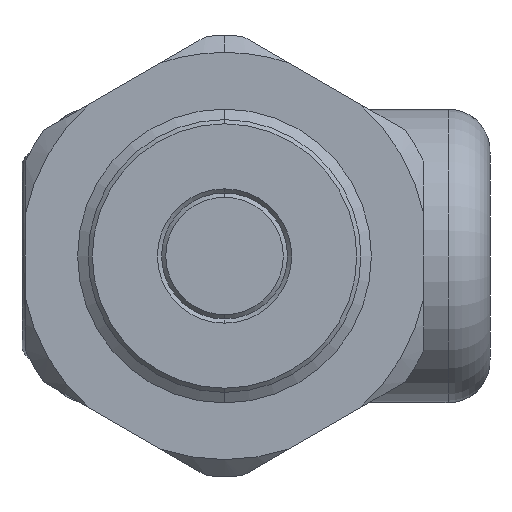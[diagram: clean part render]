
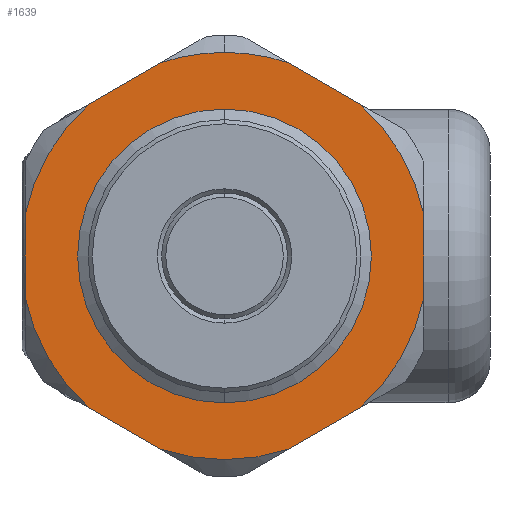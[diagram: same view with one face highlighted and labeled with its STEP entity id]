
A CAD part, front view. The second image highlights one B-rep face of the part: STEP entity #1639.
In plain terms, the highlighted planar face has unit normal (0, -1, 0).
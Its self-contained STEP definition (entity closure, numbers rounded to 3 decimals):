
#502 = VERTEX_POINT ( 'NONE', #12022 ) ;
#798 = EDGE_LOOP ( 'NONE', ( #15889, #30362 ) ) ;
#907 = DIRECTION ( 'NONE',  ( 0., 0., -1. ) ) ;
#1137 = EDGE_CURVE ( 'NONE', #17055, #7738, #9471, .T. ) ;
#1639 = ADVANCED_FACE ( 'NONE', ( #16743, #3644 ), #14467, .T. ) ;
#1702 = AXIS2_PLACEMENT_3D ( 'NONE', #6555, #14244, #3706 ) ;
#1767 = VERTEX_POINT ( 'NONE', #10233 ) ;
#1939 = EDGE_CURVE ( 'NONE', #12519, #23261, #29418, .T. ) ;
#2038 = CARTESIAN_POINT ( 'NONE',  ( -13.812, -10.005, 58.04 ) ) ;
#2121 = EDGE_CURVE ( 'NONE', #11350, #2230, #2455, .T. ) ;
#2152 = DIRECTION ( 'NONE',  ( 0.866, 0., 0.5 ) ) ;
#2230 = VERTEX_POINT ( 'NONE', #26546 ) ;
#2455 = LINE ( 'NONE', #5739, #6749 ) ;
#3033 = ORIENTED_EDGE ( 'NONE', *, *, #21872, .F. ) ;
#3644 = FACE_BOUND ( 'NONE', #798, .T. ) ;
#3649 = EDGE_CURVE ( 'NONE', #25893, #13933, #22998, .T. ) ;
#3706 = DIRECTION ( 'NONE',  ( 0., 0., -1. ) ) ;
#4567 = CARTESIAN_POINT ( 'NONE',  ( -4.312, -10.005, 67. ) ) ;
#5455 = EDGE_CURVE ( 'NONE', #2230, #1767, #6851, .T. ) ;
#5496 = CARTESIAN_POINT ( 'NONE',  ( -4.312, -10.005, 60. ) ) ;
#5498 = ORIENTED_EDGE ( 'NONE', *, *, #9852, .T. ) ;
#5739 = CARTESIAN_POINT ( 'NONE',  ( -13.812, -10.005, 60. ) ) ;
#5866 = CARTESIAN_POINT ( 'NONE',  ( -9.062, -10.005, 51.773 ) ) ;
#6213 = CARTESIAN_POINT ( 'NONE',  ( -4.312, -10.005, 60. ) ) ;
#6294 = AXIS2_PLACEMENT_3D ( 'NONE', #17115, #19569, #24481 ) ;
#6555 = CARTESIAN_POINT ( 'NONE',  ( -4.312, -10.005, 60. ) ) ;
#6749 = VECTOR ( 'NONE', #13162, 1000. ) ;
#6851 = CIRCLE ( 'NONE', #28156, 9.7 ) ;
#6954 = CARTESIAN_POINT ( 'NONE',  ( -4.312, -10.005, 60. ) ) ;
#7738 = VERTEX_POINT ( 'NONE', #25428 ) ;
#7973 = DIRECTION ( 'NONE',  ( 0., 0., -1. ) ) ;
#8153 = EDGE_CURVE ( 'NONE', #11350, #10197, #17483, .T. ) ;
#8227 = ORIENTED_EDGE ( 'NONE', *, *, #29127, .T. ) ;
#8488 = CARTESIAN_POINT ( 'NONE',  ( -4.312, -10.005, 60. ) ) ;
#8676 = CARTESIAN_POINT ( 'NONE',  ( -4.312, -10.005, 60. ) ) ;
#8699 = DIRECTION ( 'NONE',  ( 0., 1., 0. ) ) ;
#8780 = DIRECTION ( 'NONE',  ( -1., 0., 0. ) ) ;
#8971 = CARTESIAN_POINT ( 'NONE',  ( -4.312, -10.005, 53. ) ) ;
#9331 = ORIENTED_EDGE ( 'NONE', *, *, #18583, .F. ) ;
#9409 = DIRECTION ( 'NONE',  ( 0., 0., -1. ) ) ;
#9471 = CIRCLE ( 'NONE', #1702, 9.7 ) ;
#9852 = EDGE_CURVE ( 'NONE', #25199, #23416, #17402, .T. ) ;
#10197 = VERTEX_POINT ( 'NONE', #25553 ) ;
#10233 = CARTESIAN_POINT ( 'NONE',  ( -10.759, -10.005, 67.247 ) ) ;
#10363 = AXIS2_PLACEMENT_3D ( 'NONE', #5496, #22629, #7973 ) ;
#10454 = CIRCLE ( 'NONE', #19946, 9.7 ) ;
#10470 = ORIENTED_EDGE ( 'NONE', *, *, #21088, .T. ) ;
#10864 = CARTESIAN_POINT ( 'NONE',  ( -7.365, -10.005, 50.793 ) ) ;
#10953 = DIRECTION ( 'NONE',  ( 0., 0., -1. ) ) ;
#11169 = ORIENTED_EDGE ( 'NONE', *, *, #1939, .T. ) ;
#11350 = VERTEX_POINT ( 'NONE', #2038 ) ;
#11978 = CIRCLE ( 'NONE', #10363, 9.7 ) ;
#12022 = CARTESIAN_POINT ( 'NONE',  ( 2.135, -10.005, 52.753 ) ) ;
#12082 = AXIS2_PLACEMENT_3D ( 'NONE', #13887, #30220, #17040 ) ;
#12178 = CARTESIAN_POINT ( 'NONE',  ( 0.438, -10.005, 51.773 ) ) ;
#12293 = VERTEX_POINT ( 'NONE', #13093 ) ;
#12473 = VECTOR ( 'NONE', #907, 1000. ) ;
#12519 = VERTEX_POINT ( 'NONE', #10864 ) ;
#13093 = CARTESIAN_POINT ( 'NONE',  ( -7.365, -10.005, 69.207 ) ) ;
#13162 = DIRECTION ( 'NONE',  ( 0., 0., 1. ) ) ;
#13748 = AXIS2_PLACEMENT_3D ( 'NONE', #14784, #14818, #14856 ) ;
#13887 = CARTESIAN_POINT ( 'NONE',  ( -0.561, -10.005, 73.135 ) ) ;
#13933 = VERTEX_POINT ( 'NONE', #4567 ) ;
#13941 = DIRECTION ( 'NONE',  ( 0.866, 0., -0.5 ) ) ;
#14177 = CARTESIAN_POINT ( 'NONE',  ( -1.259, -10.005, 50.793 ) ) ;
#14244 = DIRECTION ( 'NONE',  ( 0., -1., 0. ) ) ;
#14467 = PLANE ( 'NONE',  #12082 ) ;
#14518 = ORIENTED_EDGE ( 'NONE', *, *, #27454, .F. ) ;
#14784 = CARTESIAN_POINT ( 'NONE',  ( -4.312, -10.005, 60. ) ) ;
#14818 = DIRECTION ( 'NONE',  ( 0., 1., 0. ) ) ;
#14856 = DIRECTION ( 'NONE',  ( 0., 0., -1. ) ) ;
#15100 = EDGE_LOOP ( 'NONE', ( #10470, #31407, #25786, #3033, #5498, #8227, #9331, #22886, #24829, #20573, #14518, #11169, #27609 ) ) ;
#15506 = LINE ( 'NONE', #12178, #22019 ) ;
#15889 = ORIENTED_EDGE ( 'NONE', *, *, #3649, .T. ) ;
#16649 = VECTOR ( 'NONE', #28065, 1000. ) ;
#16743 = FACE_OUTER_BOUND ( 'NONE', #15100, .T. ) ;
#16765 = CARTESIAN_POINT ( 'NONE',  ( 5.188, -10.005, 61.96 ) ) ;
#17040 = DIRECTION ( 'NONE',  ( -0.866, 0., -0.5 ) ) ;
#17055 = VERTEX_POINT ( 'NONE', #16765 ) ;
#17115 = CARTESIAN_POINT ( 'NONE',  ( -4.312, -10.005, 60. ) ) ;
#17402 = CIRCLE ( 'NONE', #19018, 9.7 ) ;
#17483 = CIRCLE ( 'NONE', #6294, 9.7 ) ;
#17990 = AXIS2_PLACEMENT_3D ( 'NONE', #6213, #30784, #25923 ) ;
#18140 = LINE ( 'NONE', #5866, #16649 ) ;
#18583 = EDGE_CURVE ( 'NONE', #1767, #12293, #21267, .T. ) ;
#18949 = LINE ( 'NONE', #20676, #12473 ) ;
#19018 = AXIS2_PLACEMENT_3D ( 'NONE', #24278, #22009, #22224 ) ;
#19222 = EDGE_CURVE ( 'NONE', #502, #23261, #15506, .T. ) ;
#19569 = DIRECTION ( 'NONE',  ( 0., -1., 0. ) ) ;
#19946 = AXIS2_PLACEMENT_3D ( 'NONE', #6954, #24069, #9409 ) ;
#20334 = LINE ( 'NONE', #28657, #29979 ) ;
#20367 = VERTEX_POINT ( 'NONE', #21929 ) ;
#20573 = ORIENTED_EDGE ( 'NONE', *, *, #8153, .T. ) ;
#20676 = CARTESIAN_POINT ( 'NONE',  ( 5.188, -10.005, 60. ) ) ;
#21088 = EDGE_CURVE ( 'NONE', #502, #20367, #11978, .T. ) ;
#21267 = LINE ( 'NONE', #26565, #27823 ) ;
#21872 = EDGE_CURVE ( 'NONE', #25199, #7738, #20334, .T. ) ;
#21929 = CARTESIAN_POINT ( 'NONE',  ( 5.188, -10.005, 58.04 ) ) ;
#22009 = DIRECTION ( 'NONE',  ( 0., -1., 0. ) ) ;
#22019 = VECTOR ( 'NONE', #26843, 1000. ) ;
#22224 = DIRECTION ( 'NONE',  ( 0., 0., -1. ) ) ;
#22609 = CARTESIAN_POINT ( 'NONE',  ( -4.312, -10.005, 69.7 ) ) ;
#22629 = DIRECTION ( 'NONE',  ( 0., -1., 0. ) ) ;
#22886 = ORIENTED_EDGE ( 'NONE', *, *, #5455, .F. ) ;
#22998 = CIRCLE ( 'NONE', #13748, 7. ) ;
#23261 = VERTEX_POINT ( 'NONE', #14177 ) ;
#23416 = VERTEX_POINT ( 'NONE', #22609 ) ;
#24069 = DIRECTION ( 'NONE',  ( 0., -1., 0. ) ) ;
#24278 = CARTESIAN_POINT ( 'NONE',  ( -4.312, -10.005, 60. ) ) ;
#24481 = DIRECTION ( 'NONE',  ( 0., 0., -1. ) ) ;
#24829 = ORIENTED_EDGE ( 'NONE', *, *, #2121, .F. ) ;
#25199 = VERTEX_POINT ( 'NONE', #30490 ) ;
#25428 = CARTESIAN_POINT ( 'NONE',  ( 2.135, -10.005, 67.247 ) ) ;
#25553 = CARTESIAN_POINT ( 'NONE',  ( -10.759, -10.005, 52.753 ) ) ;
#25622 = DIRECTION ( 'NONE',  ( 0., 1., 0. ) ) ;
#25786 = ORIENTED_EDGE ( 'NONE', *, *, #1137, .T. ) ;
#25893 = VERTEX_POINT ( 'NONE', #8971 ) ;
#25923 = DIRECTION ( 'NONE',  ( 0., 0., -1. ) ) ;
#26272 = CIRCLE ( 'NONE', #28800, 7. ) ;
#26546 = CARTESIAN_POINT ( 'NONE',  ( -13.812, -10.005, 61.96 ) ) ;
#26565 = CARTESIAN_POINT ( 'NONE',  ( -9.062, -10.005, 68.227 ) ) ;
#26843 = DIRECTION ( 'NONE',  ( -0.866, 0., -0.5 ) ) ;
#26849 = EDGE_CURVE ( 'NONE', #13933, #25893, #26272, .T. ) ;
#26859 = EDGE_CURVE ( 'NONE', #17055, #20367, #18949, .T. ) ;
#27454 = EDGE_CURVE ( 'NONE', #12519, #10197, #18140, .T. ) ;
#27609 = ORIENTED_EDGE ( 'NONE', *, *, #19222, .F. ) ;
#27823 = VECTOR ( 'NONE', #2152, 1000. ) ;
#28065 = DIRECTION ( 'NONE',  ( -0.866, 0., 0.5 ) ) ;
#28156 = AXIS2_PLACEMENT_3D ( 'NONE', #8676, #8699, #8780 ) ;
#28657 = CARTESIAN_POINT ( 'NONE',  ( 0.438, -10.005, 68.227 ) ) ;
#28800 = AXIS2_PLACEMENT_3D ( 'NONE', #8488, #25622, #10953 ) ;
#29127 = EDGE_CURVE ( 'NONE', #23416, #12293, #10454, .T. ) ;
#29418 = CIRCLE ( 'NONE', #17990, 9.7 ) ;
#29979 = VECTOR ( 'NONE', #13941, 1000. ) ;
#30220 = DIRECTION ( 'NONE',  ( 0., -1., 0. ) ) ;
#30362 = ORIENTED_EDGE ( 'NONE', *, *, #26849, .T. ) ;
#30490 = CARTESIAN_POINT ( 'NONE',  ( -1.259, -10.005, 69.207 ) ) ;
#30784 = DIRECTION ( 'NONE',  ( 0., -1., 0. ) ) ;
#31407 = ORIENTED_EDGE ( 'NONE', *, *, #26859, .F. ) ;
